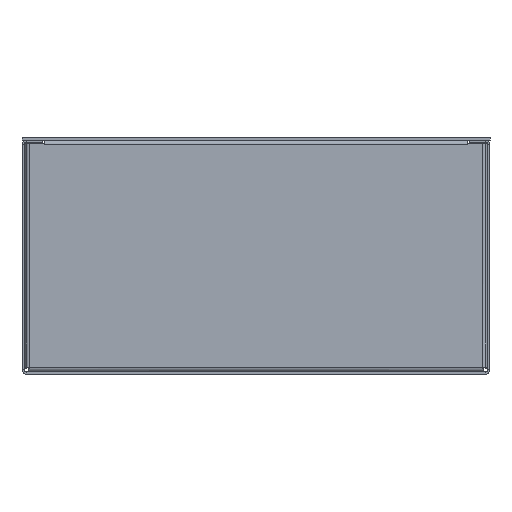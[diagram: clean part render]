
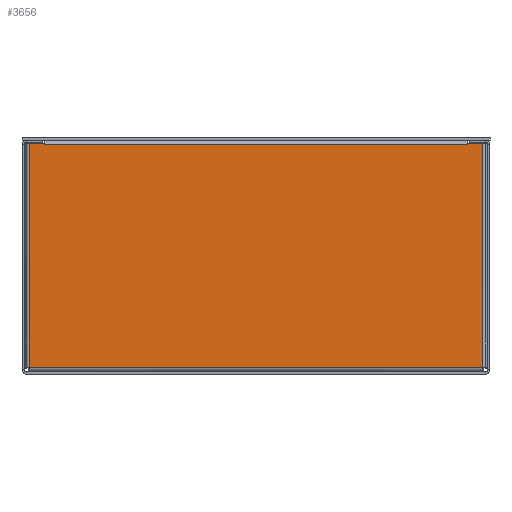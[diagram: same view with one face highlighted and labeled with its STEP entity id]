
A CAD part, front view. The second image highlights one B-rep face of the part: STEP entity #3656.
In plain terms, the highlighted planar face has unit normal (0, -1, 0).
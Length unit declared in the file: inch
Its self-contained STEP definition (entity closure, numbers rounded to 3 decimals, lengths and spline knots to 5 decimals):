
#2704 = DIRECTION ( 'NONE',  ( 1., 0., 0. ) ) ;
#2710 = VECTOR ( 'NONE', #2704, 39.37008 ) ;
#2711 = CARTESIAN_POINT ( 'NONE',  ( -5.83682, 0., 0.175 ) ) ;
#2712 = LINE ( 'NONE', #2711, #2710 ) ;
#2827 = CARTESIAN_POINT ( 'NONE',  ( 5.43, 0., 5.92 ) ) ;
#2843 = LINE ( 'NONE', #2887, #2886 ) ;
#2861 = CARTESIAN_POINT ( 'NONE',  ( -5.43, 0., 5.92 ) ) ;
#2864 = CARTESIAN_POINT ( 'NONE',  ( -5.93, 0., 5.92 ) ) ;
#2865 = PLANE ( 'NONE',  #2891 ) ;
#2866 = FACE_OUTER_BOUND ( 'NONE', #3664, .T. ) ;
#2885 = DIRECTION ( 'NONE',  ( 0., 0., -1. ) ) ;
#2886 = VECTOR ( 'NONE', #2885, 39.37008 ) ;
#2887 = CARTESIAN_POINT ( 'NONE',  ( -5.43, 0., 5.92 ) ) ;
#2889 = DIRECTION ( 'NONE',  ( 0., 0., 1. ) ) ;
#2890 = DIRECTION ( 'NONE',  ( 0., 1., 0. ) ) ;
#2891 = AXIS2_PLACEMENT_3D ( 'NONE', #2864, #2890, #2889 ) ;
#2924 = CARTESIAN_POINT ( 'NONE',  ( -5.43, 0., 5.885 ) ) ;
#2942 = CARTESIAN_POINT ( 'NONE',  ( 5.43, 0., 5.885 ) ) ;
#2955 = DIRECTION ( 'NONE',  ( 0., 0., 1. ) ) ;
#2956 = VECTOR ( 'NONE', #2955, 39.37008 ) ;
#2957 = CARTESIAN_POINT ( 'NONE',  ( 5.43, 0., 5.92 ) ) ;
#2958 = LINE ( 'NONE', #2957, #2956 ) ;
#2959 = DIRECTION ( 'NONE',  ( 0., 0., 1. ) ) ;
#2960 = VECTOR ( 'NONE', #2959, 39.37008 ) ;
#2961 = DIRECTION ( 'NONE',  ( 1., 0., 0. ) ) ;
#2962 = VECTOR ( 'NONE', #2961, 39.37008 ) ;
#2963 = CARTESIAN_POINT ( 'NONE',  ( 5.815, 0., 0.175 ) ) ;
#2971 = DIRECTION ( 'NONE',  ( 0., 0., -1. ) ) ;
#2972 = VECTOR ( 'NONE', #2971, 39.37008 ) ;
#2975 = CARTESIAN_POINT ( 'NONE',  ( 5.815, 0., 0.15318 ) ) ;
#2976 = LINE ( 'NONE', #2975, #2960 ) ;
#2977 = LINE ( 'NONE', #2986, #2987 ) ;
#2978 = CARTESIAN_POINT ( 'NONE',  ( -5.815, 0., 5.92 ) ) ;
#2979 = LINE ( 'NONE', #2978, #2972 ) ;
#2981 = CARTESIAN_POINT ( 'NONE',  ( 5.815, 0., 5.92 ) ) ;
#2982 = CARTESIAN_POINT ( 'NONE',  ( -5.93, 0., 5.92 ) ) ;
#2983 = LINE ( 'NONE', #2982, #2962 ) ;
#2986 = CARTESIAN_POINT ( 'NONE',  ( 5.93, 0., 5.92 ) ) ;
#2987 = VECTOR ( 'NONE', #2989, 39.37008 ) ;
#2989 = DIRECTION ( 'NONE',  ( 1., 0., 0. ) ) ;
#3010 = CARTESIAN_POINT ( 'NONE',  ( -5.815, 0., 0.175 ) ) ;
#3028 = CARTESIAN_POINT ( 'NONE',  ( 5.43, 0., 5.885 ) ) ;
#3032 = DIRECTION ( 'NONE',  ( -1., 0., 0. ) ) ;
#3062 = CARTESIAN_POINT ( 'NONE',  ( -5.815, 0., 5.92 ) ) ;
#3072 = LINE ( 'NONE', #3028, #3078 ) ;
#3078 = VECTOR ( 'NONE', #3032, 39.37008 ) ;
#3564 = VERTEX_POINT ( 'NONE', #2827 ) ;
#3581 = VERTEX_POINT ( 'NONE', #2942 ) ;
#3593 = EDGE_CURVE ( 'NONE', #3653, #3662, #2843, .T. ) ;
#3644 = EDGE_CURVE ( 'NONE', #3581, #3564, #2958, .T. ) ;
#3653 = VERTEX_POINT ( 'NONE', #2861 ) ;
#3656 = ADVANCED_FACE ( 'NONE', ( #2866 ), #2865, .F. ) ;
#3662 = VERTEX_POINT ( 'NONE', #2924 ) ;
#3664 = EDGE_LOOP ( 'NONE', ( #3775, #3782, #3737, #3689, #3690, #3754, #3795, #3691 ) ) ;
#3687 = VERTEX_POINT ( 'NONE', #2963 ) ;
#3689 = ORIENTED_EDGE ( 'NONE', *, *, #3733, .F. ) ;
#3690 = ORIENTED_EDGE ( 'NONE', *, *, #3738, .T. ) ;
#3691 = ORIENTED_EDGE ( 'NONE', *, *, #3716, .F. ) ;
#3716 = EDGE_CURVE ( 'NONE', #3564, #3718, #2977, .T. ) ;
#3718 = VERTEX_POINT ( 'NONE', #2981 ) ;
#3719 = EDGE_CURVE ( 'NONE', #3687, #3718, #2976, .T. ) ;
#3733 = EDGE_CURVE ( 'NONE', #3774, #3653, #2983, .T. ) ;
#3737 = ORIENTED_EDGE ( 'NONE', *, *, #3593, .F. ) ;
#3738 = EDGE_CURVE ( 'NONE', #3774, #3794, #2979, .T. ) ;
#3748 = EDGE_CURVE ( 'NONE', #3794, #3687, #2712, .T. ) ;
#3754 = ORIENTED_EDGE ( 'NONE', *, *, #3748, .T. ) ;
#3774 = VERTEX_POINT ( 'NONE', #3062 ) ;
#3775 = ORIENTED_EDGE ( 'NONE', *, *, #3644, .F. ) ;
#3782 = ORIENTED_EDGE ( 'NONE', *, *, #3804, .T. ) ;
#3794 = VERTEX_POINT ( 'NONE', #3010 ) ;
#3795 = ORIENTED_EDGE ( 'NONE', *, *, #3719, .T. ) ;
#3804 = EDGE_CURVE ( 'NONE', #3581, #3662, #3072, .T. ) ;
